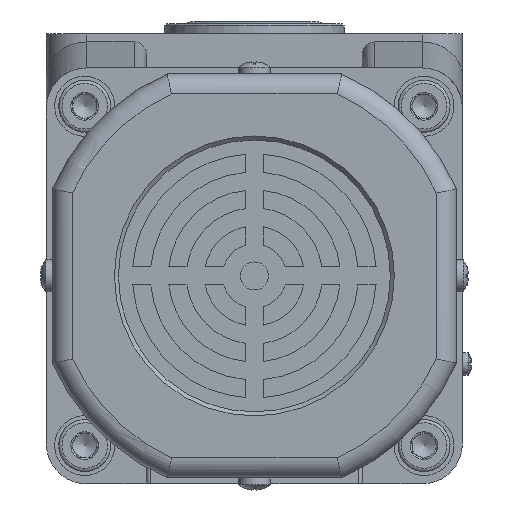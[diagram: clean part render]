
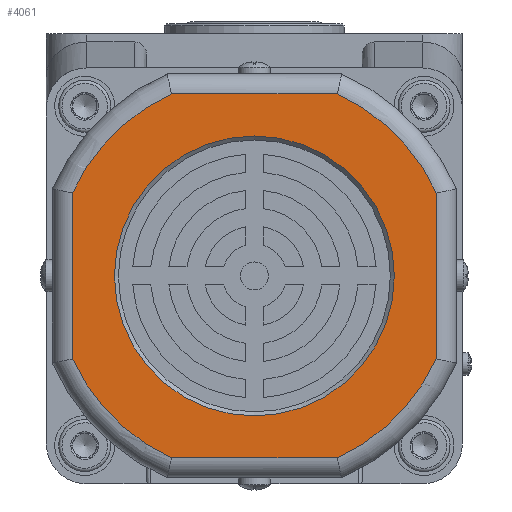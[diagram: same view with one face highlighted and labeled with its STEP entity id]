
A CAD part, front view. The second image highlights one B-rep face of the part: STEP entity #4061.
In plain terms, the highlighted planar face has unit normal (0, -1, 0).
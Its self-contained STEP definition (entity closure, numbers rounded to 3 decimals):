
#420=FACE_BOUND('',#5709,.T.);
#421=FACE_BOUND('',#5710,.T.);
#1866=PLANE('',#13848);
#2351=LINE('',#19296,#3218);
#2352=LINE('',#19301,#3219);
#2353=LINE('',#19305,#3220);
#2354=LINE('',#19309,#3221);
#3218=VECTOR('',#15480,1.);
#3219=VECTOR('',#15483,1.);
#3220=VECTOR('',#15486,1.);
#3221=VECTOR('',#15489,1.);
#4061=ADVANCED_FACE('',(#420,#421),#1866,.F.);
#5709=EDGE_LOOP('',(#6864));
#5710=EDGE_LOOP('',(#6865,#6866,#6867,#6868,#6869,#6870,#6871,#6872));
#6864=ORIENTED_EDGE('',*,*,#11305,.T.);
#6865=ORIENTED_EDGE('',*,*,#11306,.T.);
#6866=ORIENTED_EDGE('',*,*,#11307,.T.);
#6867=ORIENTED_EDGE('',*,*,#11308,.T.);
#6868=ORIENTED_EDGE('',*,*,#11309,.T.);
#6869=ORIENTED_EDGE('',*,*,#11310,.T.);
#6870=ORIENTED_EDGE('',*,*,#11311,.T.);
#6871=ORIENTED_EDGE('',*,*,#11312,.T.);
#6872=ORIENTED_EDGE('',*,*,#11313,.T.);
#10154=VERTEX_POINT('',#19295);
#10155=VERTEX_POINT('',#19297);
#10156=VERTEX_POINT('',#19298);
#10157=VERTEX_POINT('',#19300);
#10158=VERTEX_POINT('',#19302);
#10159=VERTEX_POINT('',#19304);
#10160=VERTEX_POINT('',#19306);
#10161=VERTEX_POINT('',#19308);
#10162=VERTEX_POINT('',#19310);
#11305=EDGE_CURVE('',#10154,#10154,#12937,.T.);
#11306=EDGE_CURVE('',#10155,#10156,#2351,.T.);
#11307=EDGE_CURVE('',#10156,#10157,#12938,.T.);
#11308=EDGE_CURVE('',#10157,#10158,#2352,.T.);
#11309=EDGE_CURVE('',#10158,#10159,#12939,.T.);
#11310=EDGE_CURVE('',#10159,#10160,#2353,.T.);
#11311=EDGE_CURVE('',#10160,#10161,#12940,.T.);
#11312=EDGE_CURVE('',#10161,#10162,#2354,.T.);
#11313=EDGE_CURVE('',#10162,#10155,#12941,.T.);
#12937=CIRCLE('',#13843,35.);
#12938=CIRCLE('',#13844,50.);
#12939=CIRCLE('',#13845,50.);
#12940=CIRCLE('',#13846,50.);
#12941=CIRCLE('',#13847,50.);
#13843=AXIS2_PLACEMENT_3D('',#19294,#15478,#15479);
#13844=AXIS2_PLACEMENT_3D('',#19299,#15481,#15482);
#13845=AXIS2_PLACEMENT_3D('',#19303,#15484,#15485);
#13846=AXIS2_PLACEMENT_3D('',#19307,#15487,#15488);
#13847=AXIS2_PLACEMENT_3D('',#19311,#15490,#15491);
#13848=AXIS2_PLACEMENT_3D('',#19312,#15492,#15493);
#15478=DIRECTION('',(0.,1.,0.));
#15479=DIRECTION('',(-1.,0.,0.));
#15480=DIRECTION('',(0.,0.,1.));
#15481=DIRECTION('',(0.,-1.,0.));
#15482=DIRECTION('',(-1.,0.,0.));
#15483=DIRECTION('',(-1.,0.,0.));
#15484=DIRECTION('',(0.,-1.,0.));
#15485=DIRECTION('',(-1.,0.,0.));
#15486=DIRECTION('',(0.,0.,-1.));
#15487=DIRECTION('',(0.,-1.,0.));
#15488=DIRECTION('',(-1.,0.,0.));
#15489=DIRECTION('',(1.,0.,0.));
#15490=DIRECTION('',(0.,-1.,0.));
#15491=DIRECTION('',(-1.,0.,0.));
#15492=DIRECTION('',(0.,1.,0.));
#15493=DIRECTION('',(-1.,0.,0.));
#19294=CARTESIAN_POINT('',(0.,-323.,-60.5));
#19295=CARTESIAN_POINT('',(-35.,-323.,-60.5));
#19296=CARTESIAN_POINT('',(45.5,-323.,-38.711));
#19297=CARTESIAN_POINT('',(45.5,-323.,-81.23));
#19298=CARTESIAN_POINT('',(45.5,-323.,-39.77));
#19299=CARTESIAN_POINT('',(0.,-323.,-60.5));
#19300=CARTESIAN_POINT('',(20.73,-323.,-15.));
#19301=CARTESIAN_POINT('',(-21.789,-323.,-15.));
#19302=CARTESIAN_POINT('',(-20.73,-323.,-15.));
#19303=CARTESIAN_POINT('',(0.,-323.,-60.5));
#19304=CARTESIAN_POINT('',(-45.5,-323.,-39.77));
#19305=CARTESIAN_POINT('',(-45.5,-323.,-82.289));
#19306=CARTESIAN_POINT('',(-45.5,-323.,-81.23));
#19307=CARTESIAN_POINT('',(0.,-323.,-60.5));
#19308=CARTESIAN_POINT('',(-20.73,-323.,-106.));
#19309=CARTESIAN_POINT('',(21.789,-323.,-106.));
#19310=CARTESIAN_POINT('',(20.73,-323.,-106.));
#19311=CARTESIAN_POINT('',(0.,-323.,-60.5));
#19312=CARTESIAN_POINT('',(0.,-323.,-60.5));
